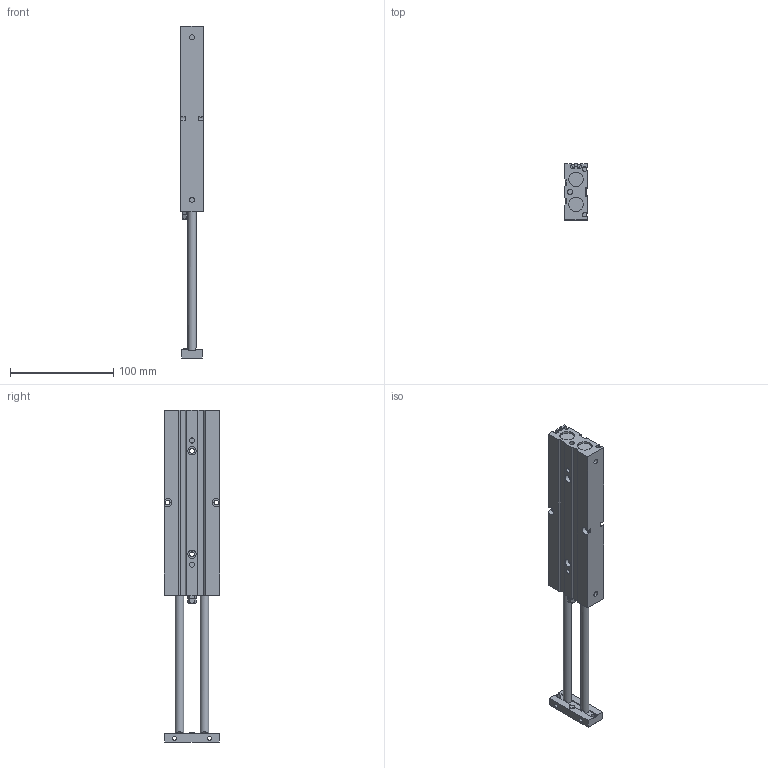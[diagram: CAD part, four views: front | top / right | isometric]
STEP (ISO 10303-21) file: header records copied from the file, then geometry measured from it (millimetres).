
FILE_DESCRIPTION((''),'2;1');
FILE_NAME('I:\3D電子目錄\氣缸\TD\TD16\TD16\TD16x125.stp','2007-08-06T09:38:53',('Administrator'),(''),'Autodesk Inventor 2008','Autodesk Inventor 2008','');
FILE_SCHEMA(('AUTOMOTIVE_DESIGN { 1 0 10303 214 1 1 1 1 }'));
Length unit declared in the file: millimetre
Products named in the file (1): TD16X125
Bounding box: 22 x 54 x 321 mm (x, y, z)
Volume: 211000.2 mm3; surface area: 51232.2 mm2
Topology: 1 solids, 3 shells, 179 faces, 465 edges, 304 vertices
Faces by surface type: plane 116, cylinder 42, bspline 12, cone 7, torus 2
Full cylindrical faces by diameter (mm): 4 x4, 4.5 x4, 5 x8, 6 x2, 7 x2, 8 x4, 14 x4
Entity records: 5819 total; most frequent: CARTESIAN_POINT 1627, ORIENTED_EDGE 824, DIRECTION 820, EDGE_CURVE 412, VERTEX_POINT 292, AXIS2_PLACEMENT_3D 274, VECTOR 272, LINE 272
